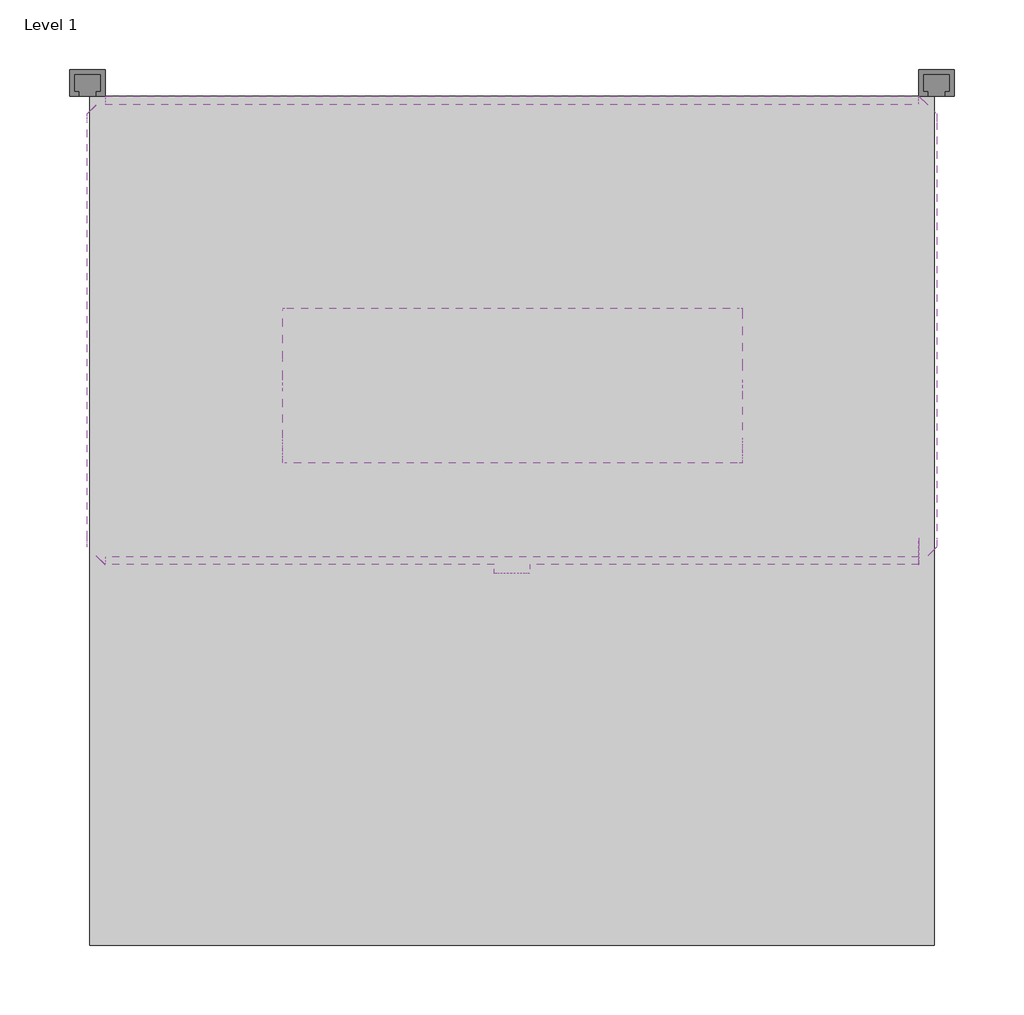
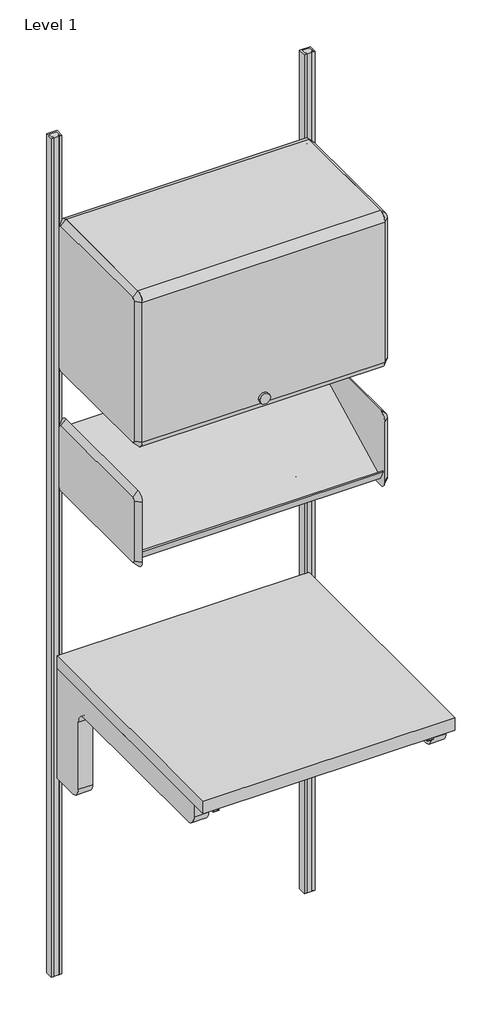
# One storey: 6 furniture elements, 1 light fixture.
"""IFC4 building model written with IfcOpenShell, lengths in millimetres."""

from ifc_helpers import new_model, si_unit, origin, place, context, project, spatial, transform, mapped, element, save
from components import furniture_7f08a233, furniture_75e43aeb, furniture_fea97cc0, furniture_03e73c74, furniture_ea425779, light_fixture_623b44f8

model = new_model("IFC4")

# Units and contexts
model_context = context("Model", 3, world=origin())
ifc_project = project(units=[si_unit("LENGTHUNIT", "METRE", prefix="MILLI")], contexts=[model_context])

# Site, building, storey
site = spatial("IfcSite", under=ifc_project)
building = spatial("IfcBuilding", under=site)
storey = spatial("IfcBuildingStorey", under=building, Name="Level 1", Elevation=0.0)

# Furniture
placement = place(None, origin())
furniture_shape = furniture_7f08a233(model_context)
element("IfcFurniture", 1, ObjectType="HermanMiller_CoStruc_C2141_Heavy-DutyWorkSurface : 24\"D x 24\"W Lam", at=placement, inside=storey, context=model_context, shape_type="MappedRepresentation", body=[
    mapped(furniture_shape, transform((304.8, -196.85, 0.0), x_axis=(1.0, 0.0, 0.0), y_axis=(0.0, 1.0, 0.0), z_axis=(0.0, 0.0, 1.0))),
])
furniture_2_shape = furniture_75e43aeb(model_context)
element("IfcFurniture", 2, ObjectType="HermanMiller_CoStruc_C2140H_WorkSurfaceSupport_Heavy Duty : 11\"H x 24\"D x 24\"W", at=placement, inside=storey, context=model_context, shape_type="MappedRepresentation", body=[
    mapped(furniture_2_shape, transform((304.8, -196.85, 0.0), x_axis=(1.0, 0.0, 0.0), y_axis=(0.0, 1.0, 0.0), z_axis=(0.0, 0.0, 1.0))),
])
furniture_3_shape = furniture_fea97cc0(model_context)
element("IfcFurniture", 3, ObjectType="HermanMiller_ActionOffice_A3352_B-StyleFlipperDoorUnit : 15 1/2\"H x 13\"D x 24\"W", at=placement, inside=storey, context=model_context, shape_type="MappedRepresentation", body=[
    mapped(furniture_3_shape, transform((304.8, -200.025, 0.0), x_axis=(1.0, 0.0, 0.0), y_axis=(0.0, 1.0, 0.0), z_axis=(0.0, 0.0, 1.0))),
])
furniture_4_shape = furniture_03e73c74(model_context)
element("IfcFurniture", 4, ObjectType="HermanMiller_ActionOffice_A3220_B-StyleStorageDisplay : Display 13\"D x 24\"W", at=placement, inside=storey, context=model_context, shape_type="MappedRepresentation", body=[
    mapped(furniture_4_shape, transform((428.7420045, -200.025, 0.0), x_axis=(1.0, 0.0, 0.0), y_axis=(0.0, 1.0, 0.0), z_axis=(0.0, 0.0, 1.0))),
])
furniture_5_shape = furniture_ea425779(model_context)
element("IfcFurniture", 5, ObjectType="HermanMiller_ActionOffice_AO213_WallStrip : 84\"H", at=placement, inside=storey, context=model_context, shape_type="MappedRepresentation", body=[
    mapped(furniture_5_shape, transform((609.6, 0.0, 0.0), x_axis=(1.0, 0.0, 0.0), y_axis=(0.0, 1.0, 0.0), z_axis=(0.0, 0.0, 1.0))),
])
element("IfcFurniture", 6, ObjectType="HermanMiller_ActionOffice_AO213_WallStrip : 84\"H", at=placement, inside=storey, context=model_context, shape_type="MappedRepresentation", body=[
    mapped(furniture_5_shape, transform((0.0, 0.0, 0.0), x_axis=(1.0, 0.0, 0.0), y_axis=(0.0, 1.0, 0.0), z_axis=(0.0, 0.0, 1.0))),
])

# Light fixture
light_fixture_shape = light_fixture_623b44f8(model_context)
element("IfcLightFixture", 7, ObjectType="HermanMiller_SupplementalProducts_G6136_UtilityTaskLight : AO Etho Canvas 24W", at=placement, inside=storey, context=model_context, shape_type="MappedRepresentation", body=[
    mapped(light_fixture_shape, transform((304.8, -227.0125, 0.0), x_axis=(1.0, 0.0, 0.0), y_axis=(0.0, 1.0, 0.0), z_axis=(0.0, 0.0, 1.0))),
])

save(model, "model.ifc")
